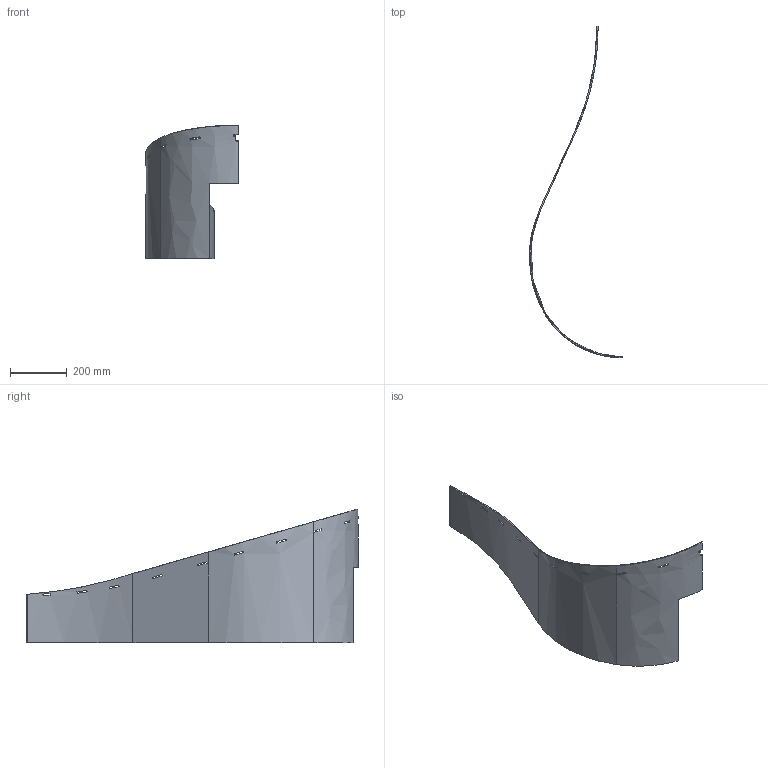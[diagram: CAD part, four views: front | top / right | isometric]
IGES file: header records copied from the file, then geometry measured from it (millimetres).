
Global section: file name: No Iges File Name specified; native system: Autodesk Inventor 2010; preprocessor: AutoDesk Inventor Iges Exporter R2010; author: aleix; date: 20200218.081350; units: millimetre
Bounding box: 327.65 x 1169.33 x 469.5 mm (x, y, z)
Surface area: 862133.2 mm2 (no closed solid volume)
Topology: 0 solids, 0 shells, 66 faces, 410 edges, 410 vertices
Faces by surface type: plane 51, revolution 13, bspline 2
